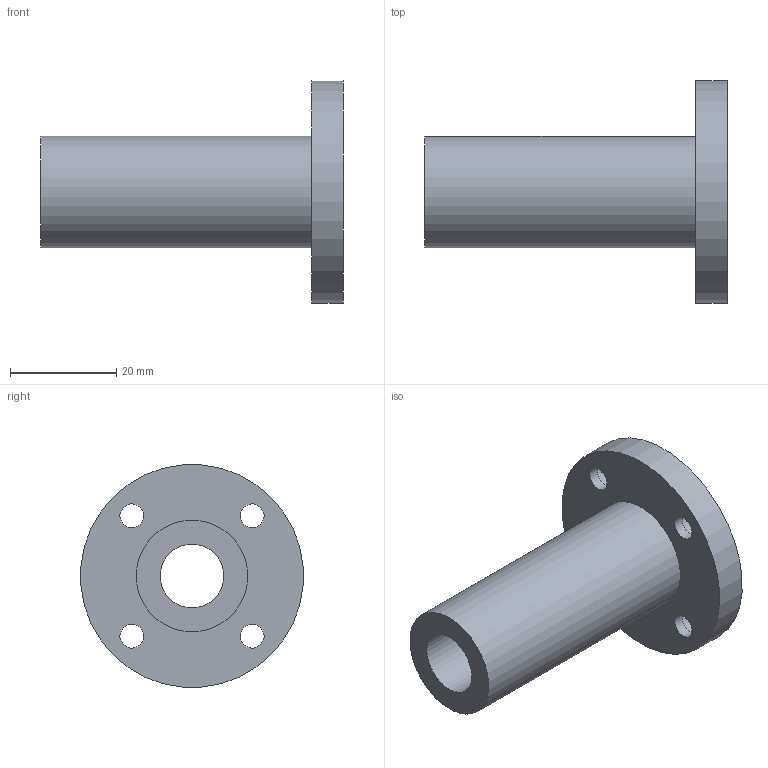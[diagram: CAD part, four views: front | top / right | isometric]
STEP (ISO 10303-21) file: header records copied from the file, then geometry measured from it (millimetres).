
FILE_DESCRIPTION(/* description */ (''),/* implementation_level */ '2;1');
FILE_NAME(/* name */ 'LMF12LUU',/* time_stamp */ '2019-07-03T10:02:35+02:00',/* author */ ('VĂ©gh MĂˇtĂ©'),/* organization */ ('Bearing Kft'),/* preprocessor_version */ 'ST-DEVELOPER v16.7',/* originating_system */ 'DEX',/* authorisation */ $);
FILE_SCHEMA (('AUTOMOTIVE_DESIGN {1 0 10303 214 3 1 1}'));
Length unit declared in the file: millimetre
Products named in the file (1): LMF12LUU
Bounding box: 57 x 41.84 x 41.84 mm (x, y, z)
Volume: 18683.5 mm3; surface area: 9231.4 mm2
Topology: 1 solids, 1 shells, 326 faces, 819 edges, 546 vertices
Faces by surface type: plane 254, bspline 58, cylinder 14
Full cylindrical faces by diameter (mm): 4.5 x4, 7.5 x4, 12 x1, 21 x1, 42 x1
Entity records: 12233 total; most frequent: CARTESIAN_POINT 4758, ORIENTED_EDGE 1614, DIRECTION 1257, EDGE_CURVE 807, LINE 663, VECTOR 663, VERTEX_POINT 546, EDGE_LOOP 399
